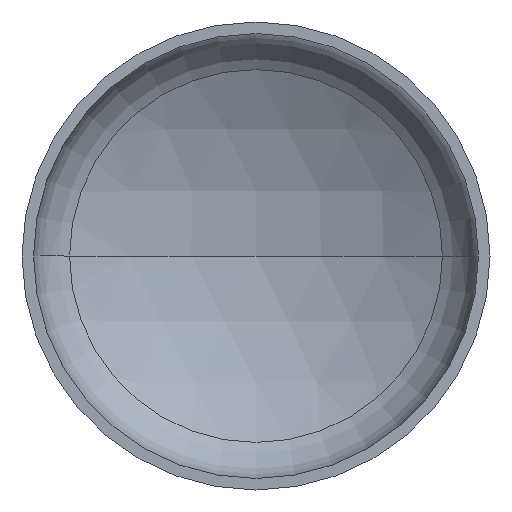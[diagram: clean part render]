
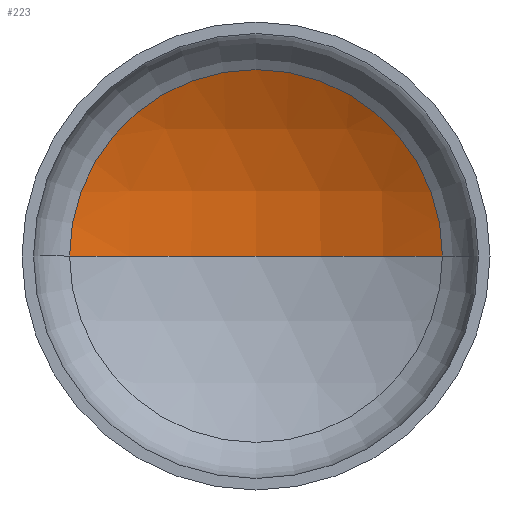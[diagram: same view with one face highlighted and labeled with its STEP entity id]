
A CAD part, front view. The second image highlights one B-rep face of the part: STEP entity #223.
In plain terms, the highlighted spherical face has radius 2400 mm.
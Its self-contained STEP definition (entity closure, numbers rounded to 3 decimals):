
#10 = DIRECTION ( 'NONE',  ( 0., -1., 0. ) ) ;
#11 = ORIENTED_EDGE ( 'NONE', *, *, #108, .T. ) ;
#17 = AXIS2_PLACEMENT_3D ( 'NONE', #250, #271, #186 ) ;
#19 = EDGE_LOOP ( 'NONE', ( #131, #11, #119 ) ) ;
#23 = DIRECTION ( 'NONE',  ( 1., 0., 0. ) ) ;
#28 = VERTEX_POINT ( 'NONE', #280 ) ;
#31 = AXIS2_PLACEMENT_3D ( 'NONE', #351, #200, #207 ) ;
#34 = AXIS2_PLACEMENT_3D ( 'NONE', #211, #377, #327 ) ;
#38 = AXIS2_PLACEMENT_3D ( 'NONE', #163, #10, #23 ) ;
#93 = VERTEX_POINT ( 'NONE', #315 ) ;
#106 = EDGE_CURVE ( 'NONE', #93, #120, #127, .T. ) ;
#108 = EDGE_CURVE ( 'NONE', #28, #93, #309, .T. ) ;
#113 = EDGE_CURVE ( 'NONE', #28, #120, #193, .T. ) ;
#119 = ORIENTED_EDGE ( 'NONE', *, *, #106, .T. ) ;
#120 = VERTEX_POINT ( 'NONE', #166 ) ;
#127 = CIRCLE ( 'NONE', #38, 1195.052 ) ;
#131 = ORIENTED_EDGE ( 'NONE', *, *, #113, .F. ) ;
#163 = CARTESIAN_POINT ( 'NONE',  ( 0., 518.918, 0. ) ) ;
#166 = CARTESIAN_POINT ( 'NONE',  ( -1195.052, 518.918, 0. ) ) ;
#186 = DIRECTION ( 'NONE',  ( -1., 0., 0. ) ) ;
#193 = CIRCLE ( 'NONE', #31, 2400. ) ;
#200 = DIRECTION ( 'NONE',  ( 0., 0., 1. ) ) ;
#207 = DIRECTION ( 'NONE',  ( 1., 0., 0. ) ) ;
#211 = CARTESIAN_POINT ( 'NONE',  ( 0., -1562.392, 0. ) ) ;
#223 = ADVANCED_FACE ( 'NONE', ( #292 ), #303, .F. ) ;
#250 = CARTESIAN_POINT ( 'NONE',  ( 0., -1562.392, 0. ) ) ;
#271 = DIRECTION ( 'NONE',  ( 0., 0., -1. ) ) ;
#280 = CARTESIAN_POINT ( 'NONE',  ( 0., 837.608, 0. ) ) ;
#292 = FACE_OUTER_BOUND ( 'NONE', #19, .T. ) ;
#303 = SPHERICAL_SURFACE ( 'NONE', #17, 2400. ) ;
#309 = CIRCLE ( 'NONE', #34, 2400. ) ;
#315 = CARTESIAN_POINT ( 'NONE',  ( 1195.052, 518.918, 0. ) ) ;
#327 = DIRECTION ( 'NONE',  ( -1., 0., 0. ) ) ;
#351 = CARTESIAN_POINT ( 'NONE',  ( 0., -1562.392, 0. ) ) ;
#377 = DIRECTION ( 'NONE',  ( 0., 0., -1. ) ) ;
